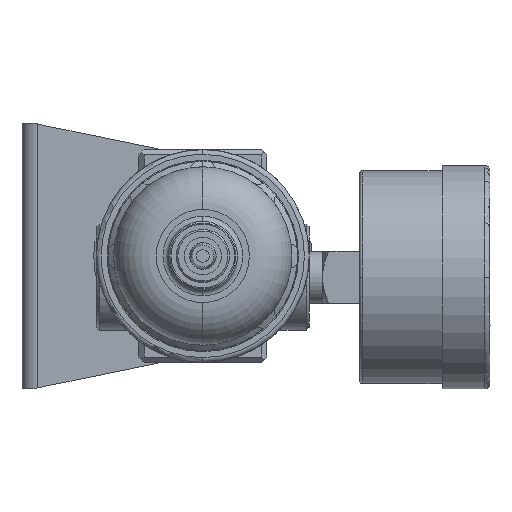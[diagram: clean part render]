
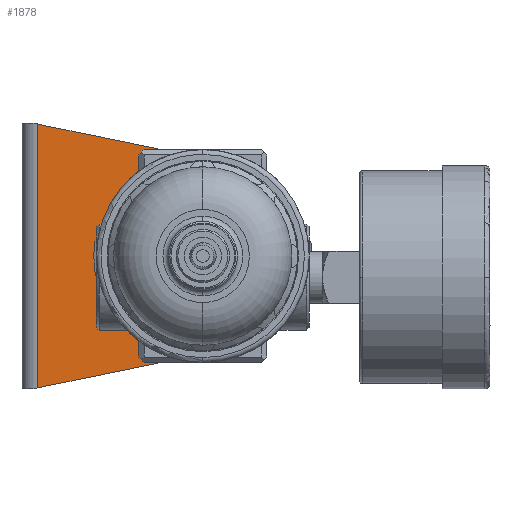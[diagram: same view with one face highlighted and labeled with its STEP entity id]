
A CAD part, front view. The second image highlights one B-rep face of the part: STEP entity #1878.
In plain terms, the highlighted planar face has unit normal (0, -1, 0).
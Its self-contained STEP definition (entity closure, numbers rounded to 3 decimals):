
#698 = AXIS2_PLACEMENT_3D ( 'NONE', #22216, #12951, #37130 ) ;
#963 = FACE_BOUND ( 'NONE', #6540, .T. ) ;
#1134 = EDGE_CURVE ( 'NONE', #20151, #15666, #31516, .T. ) ;
#1310 = LINE ( 'NONE', #13781, #14591 ) ;
#1878 = ADVANCED_FACE ( 'NONE', ( #21799, #963 ), #35848, .T. ) ;
#2404 = VECTOR ( 'NONE', #4702, 1000. ) ;
#3019 = EDGE_CURVE ( 'NONE', #20791, #35181, #25887, .T. ) ;
#3245 = DIRECTION ( 'NONE',  ( 0.979, 0., 0.203 ) ) ;
#4407 = CARTESIAN_POINT ( 'NONE',  ( 22., 24.1, 2.5 ) ) ;
#4421 = CARTESIAN_POINT ( 'NONE',  ( 0., 24.1, 0. ) ) ;
#4695 = VECTOR ( 'NONE', #34810, 1000. ) ;
#4702 = DIRECTION ( 'NONE',  ( -0.979, 0., 0.203 ) ) ;
#6105 = LINE ( 'NONE', #4407, #4695 ) ;
#6540 = EDGE_LOOP ( 'NONE', ( #34909, #20389 ) ) ;
#6621 = EDGE_CURVE ( 'NONE', #26421, #20080, #11280, .T. ) ;
#6992 = EDGE_CURVE ( 'NONE', #15666, #26421, #1310, .T. ) ;
#8131 = DIRECTION ( 'NONE',  ( 0., 0., -1. ) ) ;
#8234 = DIRECTION ( 'NONE',  ( 0., 0., -1. ) ) ;
#8340 = VECTOR ( 'NONE', #3245, 1000. ) ;
#10238 = CARTESIAN_POINT ( 'NONE',  ( 18., 24.1, 2.5 ) ) ;
#10432 = EDGE_CURVE ( 'NONE', #35181, #20791, #15845, .T. ) ;
#10512 = LINE ( 'NONE', #34833, #2404 ) ;
#10901 = CARTESIAN_POINT ( 'NONE',  ( 17.826, 24.1, 2.5 ) ) ;
#11159 = CARTESIAN_POINT ( 'NONE',  ( -31., 24.1, 24.793 ) ) ;
#11280 = LINE ( 'NONE', #20962, #28376 ) ;
#11308 = DIRECTION ( 'NONE',  ( 0., -1., 0. ) ) ;
#11539 = CARTESIAN_POINT ( 'NONE',  ( -31., 24.1, 25. ) ) ;
#12764 = CARTESIAN_POINT ( 'NONE',  ( 17.826, 24.1, -2.5 ) ) ;
#12951 = DIRECTION ( 'NONE',  ( 0., -1., 0. ) ) ;
#13367 = EDGE_CURVE ( 'NONE', #20214, #36142, #10512, .T. ) ;
#13516 = DIRECTION ( 'NONE',  ( 1., 0., 0. ) ) ;
#13781 = CARTESIAN_POINT ( 'NONE',  ( 17.826, 24.1, -2.5 ) ) ;
#14591 = VECTOR ( 'NONE', #13516, 1000. ) ;
#14929 = ORIENTED_EDGE ( 'NONE', *, *, #1134, .T. ) ;
#15160 = LINE ( 'NONE', #11539, #26532 ) ;
#15411 = AXIS2_PLACEMENT_3D ( 'NONE', #4421, #34822, #32038 ) ;
#15666 = VERTEX_POINT ( 'NONE', #12764 ) ;
#15845 = CIRCLE ( 'NONE', #26342, 16. ) ;
#15892 = CARTESIAN_POINT ( 'NONE',  ( 3.459, 24.1, -17.664 ) ) ;
#16391 = ORIENTED_EDGE ( 'NONE', *, *, #6992, .T. ) ;
#16421 = LINE ( 'NONE', #21548, #8340 ) ;
#17073 = CARTESIAN_POINT ( 'NONE',  ( 0., 24.1, 0. ) ) ;
#17250 = AXIS2_PLACEMENT_3D ( 'NONE', #35438, #11308, #8131 ) ;
#18343 = CARTESIAN_POINT ( 'NONE',  ( -31., 24.1, -24.793 ) ) ;
#18981 = CARTESIAN_POINT ( 'NONE',  ( 0., 24.1, 0. ) ) ;
#19185 = ORIENTED_EDGE ( 'NONE', *, *, #6621, .T. ) ;
#19259 = CIRCLE ( 'NONE', #35295, 18. ) ;
#19634 = ORIENTED_EDGE ( 'NONE', *, *, #23430, .T. ) ;
#20080 = VERTEX_POINT ( 'NONE', #10238 ) ;
#20151 = VERTEX_POINT ( 'NONE', #15892 ) ;
#20214 = VERTEX_POINT ( 'NONE', #28484 ) ;
#20389 = ORIENTED_EDGE ( 'NONE', *, *, #10432, .T. ) ;
#20698 = DIRECTION ( 'NONE',  ( 0., 0., 1. ) ) ;
#20791 = VERTEX_POINT ( 'NONE', #36628 ) ;
#20899 = CARTESIAN_POINT ( 'NONE',  ( 0., 24.1, 16. ) ) ;
#20962 = CARTESIAN_POINT ( 'NONE',  ( 18., 24.1, 25. ) ) ;
#21548 = CARTESIAN_POINT ( 'NONE',  ( -31., 24.1, -24.793 ) ) ;
#21799 = FACE_OUTER_BOUND ( 'NONE', #25061, .T. ) ;
#22216 = CARTESIAN_POINT ( 'NONE',  ( 0., 24.1, 0. ) ) ;
#22402 = VERTEX_POINT ( 'NONE', #10901 ) ;
#23166 = DIRECTION ( 'NONE',  ( 0., -1., 0. ) ) ;
#23430 = EDGE_CURVE ( 'NONE', #20080, #22402, #6105, .T. ) ;
#24398 = EDGE_CURVE ( 'NONE', #37279, #20151, #16421, .T. ) ;
#25061 = EDGE_LOOP ( 'NONE', ( #29829, #36740, #37131, #14929, #16391, #19185, #19634, #26167 ) ) ;
#25467 = DIRECTION ( 'NONE',  ( 0., 1., 0. ) ) ;
#25887 = CIRCLE ( 'NONE', #15411, 16. ) ;
#25963 = DIRECTION ( 'NONE',  ( 0., 0., 1. ) ) ;
#26167 = ORIENTED_EDGE ( 'NONE', *, *, #37961, .T. ) ;
#26342 = AXIS2_PLACEMENT_3D ( 'NONE', #18981, #25467, #34623 ) ;
#26421 = VERTEX_POINT ( 'NONE', #39482 ) ;
#26532 = VECTOR ( 'NONE', #8234, 1000. ) ;
#28376 = VECTOR ( 'NONE', #20698, 1000. ) ;
#28484 = CARTESIAN_POINT ( 'NONE',  ( 3.459, 24.1, 17.664 ) ) ;
#29829 = ORIENTED_EDGE ( 'NONE', *, *, #13367, .T. ) ;
#30828 = EDGE_CURVE ( 'NONE', #36142, #37279, #15160, .T. ) ;
#31516 = CIRCLE ( 'NONE', #698, 18. ) ;
#32038 = DIRECTION ( 'NONE',  ( 0., 0., -1. ) ) ;
#34623 = DIRECTION ( 'NONE',  ( 0., 0., -1. ) ) ;
#34810 = DIRECTION ( 'NONE',  ( -1., 0., 0. ) ) ;
#34822 = DIRECTION ( 'NONE',  ( 0., 1., 0. ) ) ;
#34833 = CARTESIAN_POINT ( 'NONE',  ( 3.459, 24.1, 17.664 ) ) ;
#34909 = ORIENTED_EDGE ( 'NONE', *, *, #3019, .T. ) ;
#35181 = VERTEX_POINT ( 'NONE', #20899 ) ;
#35295 = AXIS2_PLACEMENT_3D ( 'NONE', #17073, #23166, #25963 ) ;
#35438 = CARTESIAN_POINT ( 'NONE',  ( -31., 24.1, 25. ) ) ;
#35848 = PLANE ( 'NONE',  #17250 ) ;
#36142 = VERTEX_POINT ( 'NONE', #11159 ) ;
#36628 = CARTESIAN_POINT ( 'NONE',  ( 0., 24.1, -16. ) ) ;
#36740 = ORIENTED_EDGE ( 'NONE', *, *, #30828, .T. ) ;
#37130 = DIRECTION ( 'NONE',  ( 0., 0., 1. ) ) ;
#37131 = ORIENTED_EDGE ( 'NONE', *, *, #24398, .T. ) ;
#37279 = VERTEX_POINT ( 'NONE', #18343 ) ;
#37961 = EDGE_CURVE ( 'NONE', #22402, #20214, #19259, .T. ) ;
#39482 = CARTESIAN_POINT ( 'NONE',  ( 18., 24.1, -2.5 ) ) ;
